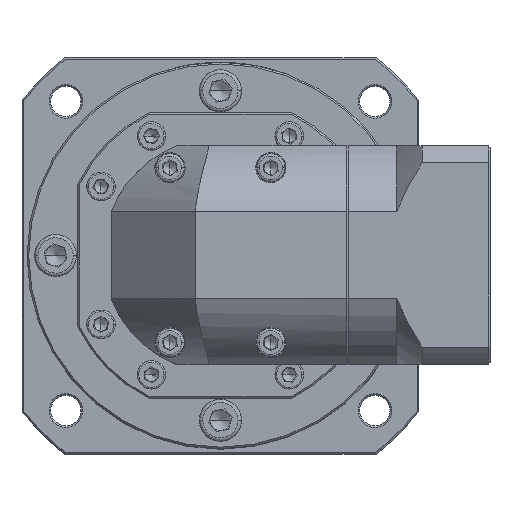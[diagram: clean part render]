
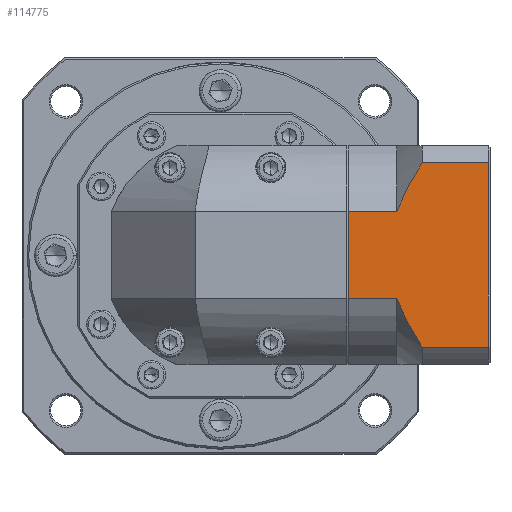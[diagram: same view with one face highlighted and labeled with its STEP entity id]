
A CAD part, top view. The second image highlights one B-rep face of the part: STEP entity #114775.
In plain terms, the highlighted planar face has unit normal (0, 0, 1).
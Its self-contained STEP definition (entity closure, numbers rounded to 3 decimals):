
#4101 = CARTESIAN_POINT ( 'NONE',  ( 143.336, 87.765, 23.976 ) ) ;
#4167 = CARTESIAN_POINT ( 'NONE',  ( 170.536, 102.161, 23.976 ) ) ;
#9094 = CARTESIAN_POINT ( 'NONE',  ( 150.836, 47.389, 23.976 ) ) ;
#10586 = EDGE_LOOP ( 'NONE', ( #26963, #129480, #69661, #57978, #83573, #10879, #131533, #98805 ) ) ;
#10879 = ORIENTED_EDGE ( 'NONE', *, *, #53915, .T. ) ;
#13149 = LINE ( 'NONE', #72217, #119933 ) ;
#14691 = LINE ( 'NONE', #98632, #34865 ) ;
#17150 = EDGE_CURVE ( 'NONE', #23343, #97904, #45443, .T. ) ;
#19470 = CARTESIAN_POINT ( 'NONE',  ( 143.574, 61.143, 23.976 ) ) ;
#20862 = CARTESIAN_POINT ( 'NONE',  ( 171.036, 107.275, 23.976 ) ) ;
#23343 = VERTEX_POINT ( 'NONE', #36342 ) ;
#24942 = B_SPLINE_CURVE_WITH_KNOTS ( 'NONE', 3,
 ( #27623, #28091, #127068, #116149, #94460, #83607, #126099, #103903 ),
 .UNSPECIFIED., .F., .F.,
 ( 4, 2, 2, 4 ),
 ( 0.058, 0.062, 0.066, 0.074 ),
 .UNSPECIFIED. ) ;
#25304 = VERTEX_POINT ( 'NONE', #41924 ) ;
#26386 = VERTEX_POINT ( 'NONE', #27326 ) ;
#26963 = ORIENTED_EDGE ( 'NONE', *, *, #17150, .F. ) ;
#27326 = CARTESIAN_POINT ( 'NONE',  ( 143.336, 61.785, 23.976 ) ) ;
#27447 = VECTOR ( 'NONE', #47106, 1000. ) ;
#27623 = CARTESIAN_POINT ( 'NONE',  ( 150.836, 102.161, 23.976 ) ) ;
#28091 = CARTESIAN_POINT ( 'NONE',  ( 150.102, 101.023, 23.976 ) ) ;
#30319 = CARTESIAN_POINT ( 'NONE',  ( 146.082, 55.552, 23.976 ) ) ;
#32176 = CARTESIAN_POINT ( 'NONE',  ( 144.352, 59.242, 23.976 ) ) ;
#34865 = VECTOR ( 'NONE', #77459, 1000. ) ;
#36342 = CARTESIAN_POINT ( 'NONE',  ( 170.536, 47.389, 23.976 ) ) ;
#39845 = DIRECTION ( 'NONE',  ( 1., 0., 0. ) ) ;
#40540 = LINE ( 'NONE', #105953, #91453 ) ;
#41654 = CARTESIAN_POINT ( 'NONE',  ( 143.827, 60.504, 23.976 ) ) ;
#41924 = CARTESIAN_POINT ( 'NONE',  ( 150.836, 102.161, 23.976 ) ) ;
#42455 = VERTEX_POINT ( 'NONE', #4167 ) ;
#44599 = VERTEX_POINT ( 'NONE', #60836 ) ;
#45443 = LINE ( 'NONE', #134049, #128500 ) ;
#47106 = DIRECTION ( 'NONE',  ( 1., 0., 0. ) ) ;
#48043 = EDGE_CURVE ( 'NONE', #25304, #53197, #24942, .T. ) ;
#52176 = CARTESIAN_POINT ( 'NONE',  ( 143.336, 61.785, 23.976 ) ) ;
#53197 = VERTEX_POINT ( 'NONE', #116785 ) ;
#53567 = DIRECTION ( 'NONE',  ( 1., 0., 0. ) ) ;
#53915 = EDGE_CURVE ( 'NONE', #44599, #119139, #14691, .T. ) ;
#57978 = ORIENTED_EDGE ( 'NONE', *, *, #48043, .T. ) ;
#60245 = EDGE_CURVE ( 'NONE', #26386, #119139, #130537, .T. ) ;
#60836 = CARTESIAN_POINT ( 'NONE',  ( 128.836, 87.765, 23.976 ) ) ;
#63110 = CARTESIAN_POINT ( 'NONE',  ( 147.986, 51.971, 23.976 ) ) ;
#64958 = DIRECTION ( 'NONE',  ( 0., 0., -1. ) ) ;
#66250 = VECTOR ( 'NONE', #135957, 1000. ) ;
#67555 = FACE_OUTER_BOUND ( 'NONE', #10586, .T. ) ;
#68848 = AXIS2_PLACEMENT_3D ( 'NONE', #20862, #64958, #53567 ) ;
#69661 = ORIENTED_EDGE ( 'NONE', *, *, #108616, .F. ) ;
#71714 = CARTESIAN_POINT ( 'NONE',  ( 143.336, 61.785, 23.976 ) ) ;
#72217 = CARTESIAN_POINT ( 'NONE',  ( 143.336, 102.161, 23.976 ) ) ;
#77459 = DIRECTION ( 'NONE',  ( 0., -1., 0. ) ) ;
#81062 = B_SPLINE_CURVE_WITH_KNOTS ( 'NONE', 3,
 ( #52176, #19470, #41654, #32176, #127872, #95266, #30319, #63110, #85357, #9094 ),
 .UNSPECIFIED., .F., .F.,
 ( 4, 2, 2, 2, 4 ),
 ( 0.101, 0.103, 0.105, 0.109, 0.117 ),
 .UNSPECIFIED. ) ;
#81210 = CARTESIAN_POINT ( 'NONE',  ( 150.836, 47.389, 23.976 ) ) ;
#83573 = ORIENTED_EDGE ( 'NONE', *, *, #91550, .F. ) ;
#83607 = CARTESIAN_POINT ( 'NONE',  ( 145.422, 92.755, 23.976 ) ) ;
#85357 = CARTESIAN_POINT ( 'NONE',  ( 149.374, 49.657, 23.976 ) ) ;
#89415 = EDGE_CURVE ( 'NONE', #23343, #42455, #40540, .T. ) ;
#91453 = VECTOR ( 'NONE', #117279, 1000. ) ;
#91550 = EDGE_CURVE ( 'NONE', #44599, #53197, #112101, .T. ) ;
#93784 = EDGE_CURVE ( 'NONE', #26386, #97904, #81062, .T. ) ;
#94460 = CARTESIAN_POINT ( 'NONE',  ( 147.333, 96.351, 23.976 ) ) ;
#95266 = CARTESIAN_POINT ( 'NONE',  ( 145.476, 56.764, 23.976 ) ) ;
#97904 = VERTEX_POINT ( 'NONE', #81210 ) ;
#98632 = CARTESIAN_POINT ( 'NONE',  ( 128.836, 107.275, 23.976 ) ) ;
#98805 = ORIENTED_EDGE ( 'NONE', *, *, #93784, .T. ) ;
#100937 = DIRECTION ( 'NONE',  ( -1., 0., 0. ) ) ;
#103903 = CARTESIAN_POINT ( 'NONE',  ( 143.336, 87.765, 23.976 ) ) ;
#105953 = CARTESIAN_POINT ( 'NONE',  ( 170.536, 107.275, 23.976 ) ) ;
#108616 = EDGE_CURVE ( 'NONE', #25304, #42455, #13149, .T. ) ;
#112101 = LINE ( 'NONE', #4101, #27447 ) ;
#114775 = ADVANCED_FACE ( 'NONE', ( #67555 ), #116516, .F. ) ;
#115366 = CARTESIAN_POINT ( 'NONE',  ( 128.836, 61.785, 23.976 ) ) ;
#116149 = CARTESIAN_POINT ( 'NONE',  ( 148.003, 97.537, 23.976 ) ) ;
#116516 = PLANE ( 'NONE',  #68848 ) ;
#116785 = CARTESIAN_POINT ( 'NONE',  ( 143.336, 87.765, 23.976 ) ) ;
#117279 = DIRECTION ( 'NONE',  ( 0., 1., 0. ) ) ;
#119139 = VERTEX_POINT ( 'NONE', #115366 ) ;
#119933 = VECTOR ( 'NONE', #39845, 1000. ) ;
#126099 = CARTESIAN_POINT ( 'NONE',  ( 144.278, 90.303, 23.976 ) ) ;
#127068 = CARTESIAN_POINT ( 'NONE',  ( 149.387, 99.872, 23.976 ) ) ;
#127872 = CARTESIAN_POINT ( 'NONE',  ( 144.626, 58.618, 23.976 ) ) ;
#128500 = VECTOR ( 'NONE', #100937, 1000. ) ;
#129480 = ORIENTED_EDGE ( 'NONE', *, *, #89415, .T. ) ;
#130537 = LINE ( 'NONE', #71714, #66250 ) ;
#131533 = ORIENTED_EDGE ( 'NONE', *, *, #60245, .F. ) ;
#134049 = CARTESIAN_POINT ( 'NONE',  ( 143.336, 47.389, 23.976 ) ) ;
#135957 = DIRECTION ( 'NONE',  ( -1., 0., 0. ) ) ;
